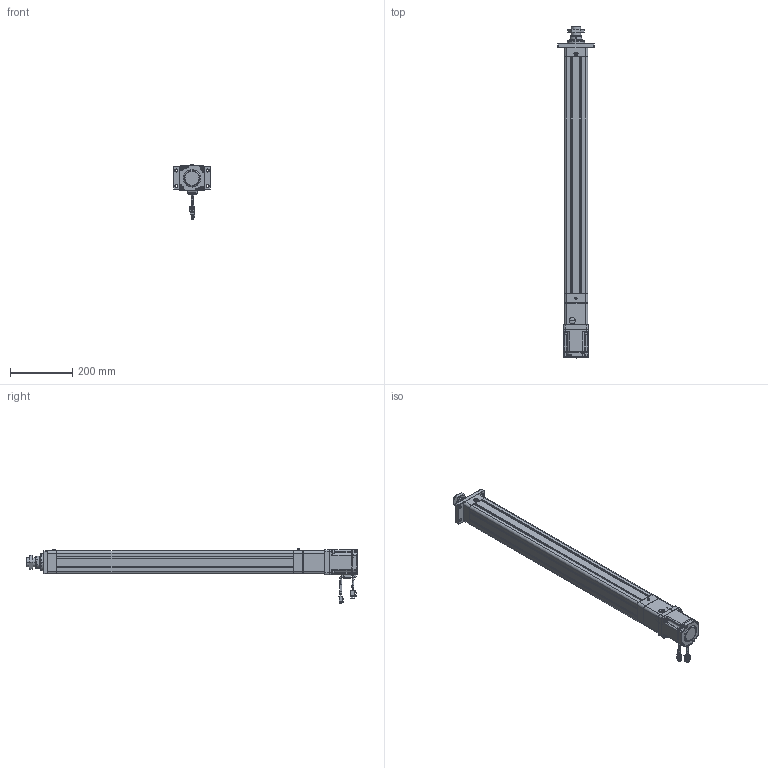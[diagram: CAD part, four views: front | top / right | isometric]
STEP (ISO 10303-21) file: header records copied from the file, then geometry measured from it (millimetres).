
FILE_DESCRIPTION((''),'2;1');
FILE_NAME('HE63-D-100-X1_ASM','2020-04-15T',('ASUS20200'),(''),'CREO PARAMETRIC BY PTC INC, 2014190','CREO PARAMETRIC BY PTC INC, 2014190','');
FILE_SCHEMA(('CONFIG_CONTROL_DESIGN'));
Length unit declared in the file: millimetre
Products named in the file (28): HE63-D-P-001-X1; HE63-D-P-002-X1; HE63-D-P-003-X1; LGLM-M8-22; HE63-D-009-X1; HE63-D-010-X1; M6X16; _MHMF082L1A2; _CABLE_MOTOR_BOTTOM_05; _CABLE_MOTOR_TOP_05; _MOTOR_CONNECTOR_2; _CABLE_BRAKE_BOTTOM_05; _CABLE_BRAKE_TOP_05; _MHMF_CONNECTOR_9_PIN_A6; MHMF082L1A2M2_1_ASM; SLM-01; YZ-M6X1; SKT-16; TD-6; JDB405030; JX6X6X25; HE63-D-P-005-X1; HE63-D-P-004-X1; HE63-D-P-008-X1; M6X25; F-SE63FA; M8X16; HE63-D-100-X1_ASM
Assembly tree (46 placements, depth 3):
  HE63-D-100-X1_ASM
    HE63-D-P-001-X1
    HE63-D-P-002-X1
    HE63-D-P-003-X1
    LGLM-M8-22  x8
    HE63-D-009-X1
    HE63-D-010-X1
    M6X16  x4
    MHMF082L1A2M2_1_ASM
      _MHMF082L1A2
      _CABLE_MOTOR_BOTTOM_05
      _CABLE_MOTOR_TOP_05
      _MOTOR_CONNECTOR_2
      _CABLE_BRAKE_BOTTOM_05
      _CABLE_BRAKE_TOP_05
      _MHMF_CONNECTOR_9_PIN_A6
    SLM-01
    YZ-M6X1
    SKT-16
    TD-6  x4
    JDB405030
    JX6X6X25
    HE63-D-P-005-X1
    HE63-D-P-004-X1
    HE63-D-P-008-X1
    M6X25  x4
    F-SE63FA
    M8X16  x4
Bounding box: 118 x 1066.9 x 179.15 mm (x, y, z)
Volume: 2856209.2 mm3; surface area: 838610.5 mm2
Topology: 45 solids, 73 shells, 2622 faces, 6405 edges, 4014 vertices
Faces by surface type: plane 1082, cylinder 816, cone 535, torus 142, sphere 44, bspline 3
Entity records: 65569 total; most frequent: CARTESIAN_POINT 12275, DIRECTION 11787, ORIENTED_EDGE 10454, EDGE_CURVE 5277, AXIS2_PLACEMENT_3D 4449, VERTEX_POINT 3335, VECTOR 2889, LINE 2889
